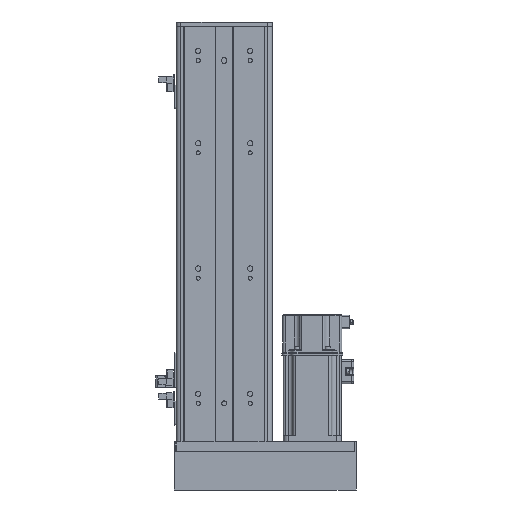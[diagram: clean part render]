
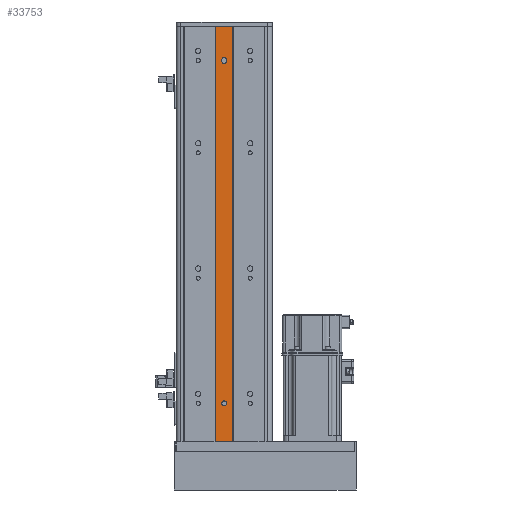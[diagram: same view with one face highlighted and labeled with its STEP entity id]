
A CAD part, front view. The second image highlights one B-rep face of the part: STEP entity #33753.
In plain terms, the highlighted planar face has unit normal (0, -1, 0).
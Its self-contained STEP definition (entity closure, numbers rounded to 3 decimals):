
#547 = DIRECTION ( 'NONE',  ( 0., 0., 1. ) ) ;
#717 = CARTESIAN_POINT ( 'NONE',  ( 9., 1.309, 561. ) ) ;
#1802 = DIRECTION ( 'NONE',  ( 0., 0., 1. ) ) ;
#3197 = FACE_BOUND ( 'NONE', #58067, .T. ) ;
#3620 = CIRCLE ( 'NONE', #30979, 2.5 ) ;
#3775 = CARTESIAN_POINT ( 'NONE',  ( -2.5, 1.309, 526.5 ) ) ;
#6548 = LINE ( 'NONE', #37243, #8142 ) ;
#7706 = DIRECTION ( 'NONE',  ( 0., 1., 0. ) ) ;
#8142 = VECTOR ( 'NONE', #52650, 1000. ) ;
#8414 = VECTOR ( 'NONE', #43050, 1000. ) ;
#9164 = EDGE_CURVE ( 'NONE', #21011, #12710, #48712, .T. ) ;
#10117 = CARTESIAN_POINT ( 'NONE',  ( -2.5, 1.309, 525.5 ) ) ;
#10434 = AXIS2_PLACEMENT_3D ( 'NONE', #64220, #63997, #547 ) ;
#11747 = ORIENTED_EDGE ( 'NONE', *, *, #34053, .F. ) ;
#12598 = VECTOR ( 'NONE', #35879, 1000. ) ;
#12710 = VERTEX_POINT ( 'NONE', #13280 ) ;
#13208 = EDGE_CURVE ( 'NONE', #59967, #44511, #46723, .T. ) ;
#13280 = CARTESIAN_POINT ( 'NONE',  ( -9., 1.309, 130. ) ) ;
#14377 = VECTOR ( 'NONE', #26007, 1000. ) ;
#14644 = FACE_OUTER_BOUND ( 'NONE', #57037, .T. ) ;
#15442 = CARTESIAN_POINT ( 'NONE',  ( 0., 1.309, 130. ) ) ;
#15719 = CARTESIAN_POINT ( 'NONE',  ( 9., 1.309, 561. ) ) ;
#16284 = FACE_BOUND ( 'NONE', #36114, .T. ) ;
#17073 = LINE ( 'NONE', #15719, #55716 ) ;
#17422 = VERTEX_POINT ( 'NONE', #22338 ) ;
#17823 = VERTEX_POINT ( 'NONE', #717 ) ;
#18301 = DIRECTION ( 'NONE',  ( 0., 0., 1. ) ) ;
#19679 = EDGE_CURVE ( 'NONE', #17422, #59524, #32105, .T. ) ;
#21011 = VERTEX_POINT ( 'NONE', #68227 ) ;
#22338 = CARTESIAN_POINT ( 'NONE',  ( 2.5, 1.309, 526.5 ) ) ;
#23071 = AXIS2_PLACEMENT_3D ( 'NONE', #44975, #7706, #18301 ) ;
#24322 = DIRECTION ( 'NONE',  ( 0., 0., -1. ) ) ;
#25365 = ORIENTED_EDGE ( 'NONE', *, *, #41852, .T. ) ;
#25804 = EDGE_CURVE ( 'NONE', #54781, #28343, #6548, .T. ) ;
#26007 = DIRECTION ( 'NONE',  ( -1., 0., 0. ) ) ;
#26010 = ORIENTED_EDGE ( 'NONE', *, *, #56717, .F. ) ;
#26256 = ORIENTED_EDGE ( 'NONE', *, *, #9164, .T. ) ;
#27516 = CARTESIAN_POINT ( 'NONE',  ( -2.5, 1.309, 170. ) ) ;
#28343 = VERTEX_POINT ( 'NONE', #3775 ) ;
#28367 = LINE ( 'NONE', #15442, #14377 ) ;
#30370 = EDGE_CURVE ( 'NONE', #59524, #54781, #63919, .T. ) ;
#30979 = AXIS2_PLACEMENT_3D ( 'NONE', #38315, #64820, #1802 ) ;
#31372 = DIRECTION ( 'NONE',  ( 0., 1., 0. ) ) ;
#31509 = CARTESIAN_POINT ( 'NONE',  ( -9., 1.309, 561. ) ) ;
#32105 = LINE ( 'NONE', #46353, #44400 ) ;
#33164 = CIRCLE ( 'NONE', #65515, 2.5 ) ;
#33753 = ADVANCED_FACE ( 'NONE', ( #3197, #16284, #14644 ), #34153, .F. ) ;
#34053 = EDGE_CURVE ( 'NONE', #17823, #34100, #17073, .T. ) ;
#34100 = VERTEX_POINT ( 'NONE', #58281 ) ;
#34153 = PLANE ( 'NONE',  #23071 ) ;
#35879 = DIRECTION ( 'NONE',  ( 1., 0., 0. ) ) ;
#36114 = EDGE_LOOP ( 'NONE', ( #25365, #49677 ) ) ;
#36964 = EDGE_CURVE ( 'NONE', #28343, #17422, #33164, .T. ) ;
#37243 = CARTESIAN_POINT ( 'NONE',  ( -2.5, 1.309, 561. ) ) ;
#38315 = CARTESIAN_POINT ( 'NONE',  ( 0., 1.309, 170. ) ) ;
#41852 = EDGE_CURVE ( 'NONE', #44511, #59967, #3620, .T. ) ;
#43050 = DIRECTION ( 'NONE',  ( 0., 0., -1. ) ) ;
#44400 = VECTOR ( 'NONE', #24322, 1000. ) ;
#44511 = VERTEX_POINT ( 'NONE', #56345 ) ;
#44975 = CARTESIAN_POINT ( 'NONE',  ( 0., 1.309, 561. ) ) ;
#45284 = CARTESIAN_POINT ( 'NONE',  ( 0., 1.309, 526.5 ) ) ;
#45323 = CARTESIAN_POINT ( 'NONE',  ( 2.5, 1.309, 525.5 ) ) ;
#46353 = CARTESIAN_POINT ( 'NONE',  ( 2.5, 1.309, 561. ) ) ;
#46723 = CIRCLE ( 'NONE', #10434, 2.5 ) ;
#47216 = DIRECTION ( 'NONE',  ( 0., 0., 1. ) ) ;
#48335 = CARTESIAN_POINT ( 'NONE',  ( -9., 1.309, 561. ) ) ;
#48407 = ORIENTED_EDGE ( 'NONE', *, *, #19679, .T. ) ;
#48446 = EDGE_CURVE ( 'NONE', #34100, #12710, #28367, .T. ) ;
#48712 = LINE ( 'NONE', #48335, #8414 ) ;
#49677 = ORIENTED_EDGE ( 'NONE', *, *, #13208, .T. ) ;
#49905 = ORIENTED_EDGE ( 'NONE', *, *, #30370, .T. ) ;
#52650 = DIRECTION ( 'NONE',  ( 0., 0., 1. ) ) ;
#53743 = LINE ( 'NONE', #31509, #12598 ) ;
#54781 = VERTEX_POINT ( 'NONE', #10117 ) ;
#55716 = VECTOR ( 'NONE', #68205, 1000. ) ;
#56345 = CARTESIAN_POINT ( 'NONE',  ( 2.5, 1.309, 170. ) ) ;
#56717 = EDGE_CURVE ( 'NONE', #21011, #17823, #53743, .T. ) ;
#57037 = EDGE_LOOP ( 'NONE', ( #60481, #11747, #26010, #26256 ) ) ;
#58067 = EDGE_LOOP ( 'NONE', ( #59519, #68219, #48407, #49905 ) ) ;
#58281 = CARTESIAN_POINT ( 'NONE',  ( 9., 1.309, 130. ) ) ;
#59519 = ORIENTED_EDGE ( 'NONE', *, *, #25804, .T. ) ;
#59524 = VERTEX_POINT ( 'NONE', #45323 ) ;
#59967 = VERTEX_POINT ( 'NONE', #27516 ) ;
#60481 = ORIENTED_EDGE ( 'NONE', *, *, #48446, .F. ) ;
#60731 = DIRECTION ( 'NONE',  ( 0., 1., 0. ) ) ;
#63003 = AXIS2_PLACEMENT_3D ( 'NONE', #63127, #31372, #47216 ) ;
#63127 = CARTESIAN_POINT ( 'NONE',  ( 0., 1.309, 525.5 ) ) ;
#63919 = CIRCLE ( 'NONE', #63003, 2.5 ) ;
#63997 = DIRECTION ( 'NONE',  ( 0., 1., 0. ) ) ;
#64220 = CARTESIAN_POINT ( 'NONE',  ( 0., 1.309, 170. ) ) ;
#64820 = DIRECTION ( 'NONE',  ( 0., 1., 0. ) ) ;
#65515 = AXIS2_PLACEMENT_3D ( 'NONE', #45284, #60731, #65584 ) ;
#65584 = DIRECTION ( 'NONE',  ( 0., 0., 1. ) ) ;
#68205 = DIRECTION ( 'NONE',  ( 0., 0., -1. ) ) ;
#68219 = ORIENTED_EDGE ( 'NONE', *, *, #36964, .T. ) ;
#68227 = CARTESIAN_POINT ( 'NONE',  ( -9., 1.309, 561. ) ) ;
